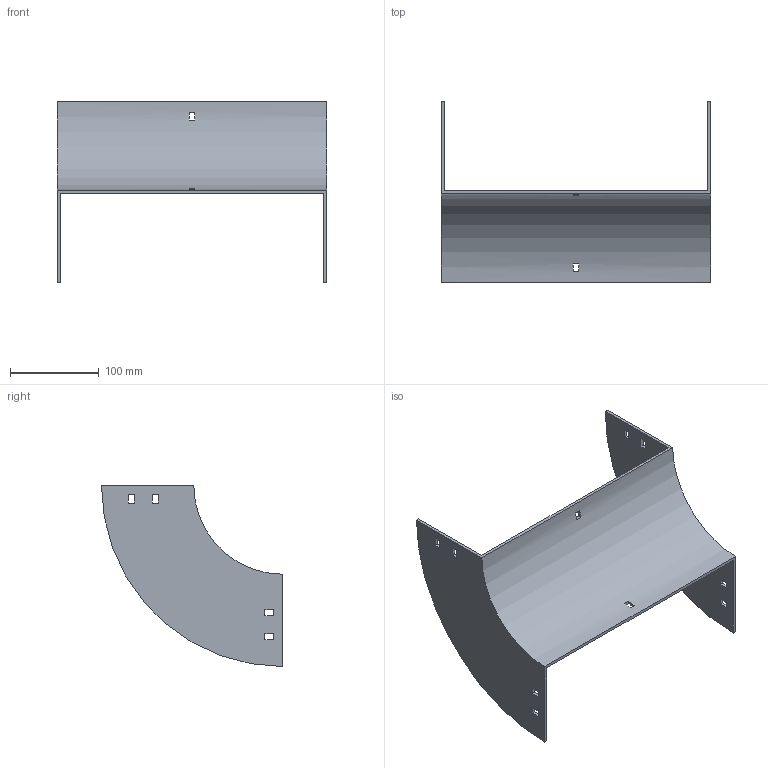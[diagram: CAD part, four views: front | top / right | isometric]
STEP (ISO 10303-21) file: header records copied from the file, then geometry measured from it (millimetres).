
FILE_DESCRIPTION (( 'STEP AP214' ), '1' );
FILE_NAME ('33B1D300.step', '2025-02-21T09:30:37', ( '' ), ( '' ), 'SwSTEP 2.0', 'SolidWorks 2023', '' );
FILE_SCHEMA (( 'AUTOMOTIVE_DESIGN' ));
Length unit declared in the file: millimetre
Products named in the file (1): 33B1D300
Bounding box: 304 x 204 x 204 mm (x, y, z)
Volume: 337584.6 mm3; surface area: 199836.4 mm2
Topology: 1 solids, 1 shells, 50 faces, 144 edges, 96 vertices
Faces by surface type: plane 46, cylinder 4
Entity records: 1687 total; most frequent: CARTESIAN_POINT 291, ORIENTED_EDGE 288, DIRECTION 262, EDGE_CURVE 144, VECTOR 128, LINE 128, VERTEX_POINT 96, EDGE_LOOP 70
